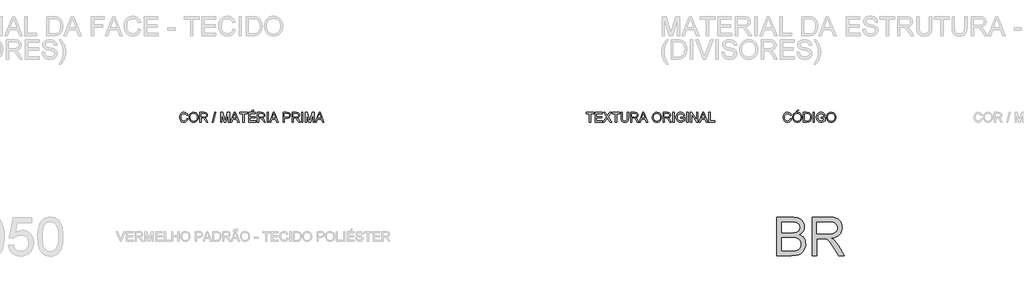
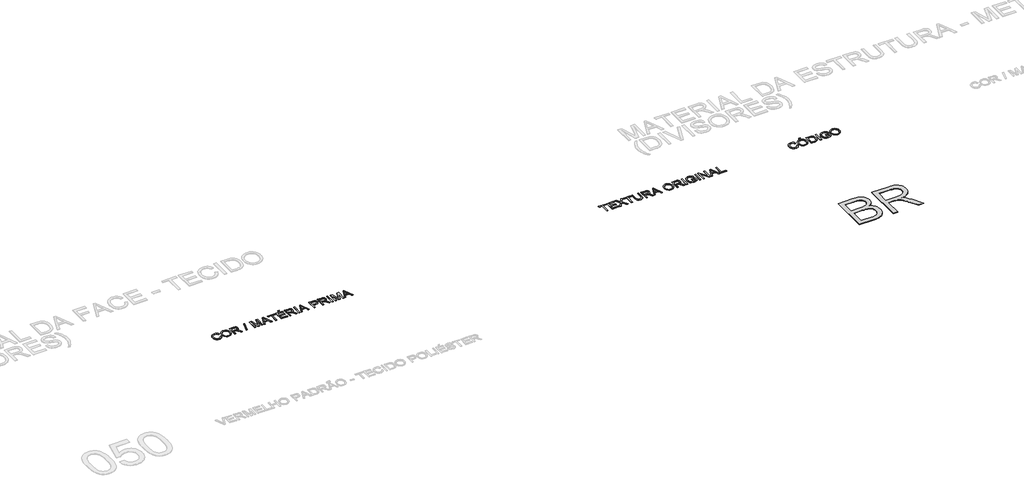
# One storey, part 56 of 67: 4 proxies.
"""IFC4 building model written with IfcOpenShell, lengths in millimetres."""

from ifc_helpers import new_model, si_unit, origin, origin_with_axes, place, context, project, spatial, polyline, outline, extrude, element, save

model = new_model("IFC4")

# Units and contexts
model_context = context("Model", 3, world=origin())
ifc_project = project(units=[si_unit("LENGTHUNIT", "METRE", prefix="MILLI")], contexts=[model_context])

# Site, building, storey
site = spatial("IfcSite", under=ifc_project)
building = spatial("IfcBuilding", under=site)
storey = spatial("IfcBuildingStorey", under=building, Name="Marelli - Linha COLAB - Planta Baixa", Elevation=0.0)

# Proxies
placement = place(None, origin())
element("IfcBuildingElementProxy", 1, Name="1200mm Arial", ObjectType="1200mm Arial", at=placement, inside=storey, context=model_context, shape_type="SweptSolid", body=[
    extrude(outline(polyline([(24875.3752953, -27980.5663201), (24875.3752953, -26775.0905983), (25335.374942, -26775.0905983), (25402.0995389, -26777.3070873), (25461.8895602, -26783.9565544), (25514.7450058, -26795.0389995), (25560.6658759, -26810.5544226), (25600.8201956, -26830.6683707), (25636.3759905, -26855.5463906), (25667.3332604, -26885.1884824), (25693.6920053, -26919.594646), (25714.7440525, -26956.8243039), (25729.7812291, -26994.9368786), (25738.803535, -27033.9323701), (25741.8109703, -27073.8107784), (25739.2817816, -27110.6449631), (25731.6942154, -27146.393896), (25719.0482718, -27181.057577), (25701.3439508, -27214.6360061), (25678.5260701, -27246.0807196), (25650.5394473, -27274.3432539), (25617.3840825, -27299.4236089), (25579.0599756, -27321.3217847), (25624.5393873, -27340.7091659), (25664.4453867, -27365.9090825), (25698.7779739, -27396.9215347), (25727.5371489, -27433.7465224), (25750.2630591, -27475.2620056), (25766.4958522, -27520.3459441), (25776.235528, -27568.998338), (25779.4820866, -27621.2191872), (25777.2655976, -27664.0130603), (25770.6161305, -27705.2802231), (25759.5336854, -27745.0206756), (25744.0182623, -27783.2344179), (25725.2286894, -27818.5326953), (25704.323795, -27849.5267534), (25681.3035791, -27876.2165921), (25656.1680418, -27898.6022115), (25628.3285718, -27917.6033166), (25597.196558, -27934.1396123), (25562.7720003, -27948.2110986), (25525.0548987, -27959.8177755), (25483.4566421, -27968.8952638), (25437.3886193, -27975.3791839), (25331.8432749, -27980.5663201), (24875.3752953, -27980.5663201)]), holes=[polyline([(25026.0597605, -27264.8151103), (25301.2354929, -27264.8151103), (25397.4734228, -27261.5777487), (25461.9263484, -27251.865664), (25492.0282926, -27242.0892), (25518.1755054, -27229.5352269), (25540.3679868, -27214.2037448), (25558.6057367, -27196.0947536), (25572.8335729, -27175.337012), (25582.996313, -27152.0592787), (25589.093957, -27126.2615538), (25591.1265051, -27097.9438372), (25589.2319128, -27070.8309342), (25583.548136, -27045.4102883), (25574.0751746, -27021.6818996), (25560.8130287, -26999.6457681), (25544.0192156, -26980.1204312), (25523.9512528, -26963.9244264), (25500.6091402, -26951.0577536), (25473.9928778, -26941.5204129), (25440.6995572, -26934.6318225), (25397.32627, -26929.7114008), (25280.3397955, -26925.7750635), (25026.0597605, -26925.7750635), (25026.0597605, -27264.8151103)]), polyline([(25026.0597605, -27829.8818548), (25335.0806364, -27829.8818548), (25402.7709235, -27828.4103269), (25446.916763, -27823.9957429), (25498.8249125, -27810.9359321), (25541.5360121, -27791.180669), (25576.2640725, -27762.8905435), (25604.2231041, -27724.2261458), (25614.9744554, -27701.4358562), (25622.6539921, -27676.9165212), (25627.261714, -27650.6681409), (25628.7976214, -27622.6907152), (25626.9949996, -27590.0963704), (25621.5871343, -27559.7093176), (25612.5740254, -27531.5295568), (25599.955673, -27505.5570879), (25583.2998156, -27482.536872), (25562.1741921, -27463.2138703), (25536.5788022, -27447.5880825), (25506.5136462, -27435.6595088), (25470.6543487, -27426.839538), (25427.6765346, -27420.5395588), (25320.3653566, -27415.4995755), (25026.0597605, -27415.4995755), (25026.0597605, -27829.8818548)])]), origin_with_axes(), (0.0, 0.0, 1.0), 10.0),
    extrude(outline(polyline([(25986.6732263, -27980.5663201), (25986.6732263, -26775.0905983), (26506.1226035, -26775.0905983), (26580.6830868, -26777.1231463), (26645.7338206, -26783.2207904), (26701.2748049, -26793.3835305), (26747.3060395, -26807.6113666), (26786.5038661, -26826.9987478), (26821.5446261, -26852.6401229), (26852.4283196, -26884.5354918), (26879.1549466, -26922.6848547), (26900.7220286, -26965.0372694), (26916.1270871, -27009.5417938), (26925.3701222, -27056.1984278), (26928.4511339, -27105.0071715), (26923.3467713, -27166.9217113), (26908.0336832, -27223.7594796), (26882.5118698, -27275.5204763), (26846.781331, -27322.2047015), (26824.9728265, -27343.2705442), (26800.3822144, -27362.3222331), (26742.8546674, -27394.383149), (26674.19869, -27418.3874491), (26594.4142823, -27434.3351336), (26644.0783517, -27466.7823256), (26680.0572108, -27498.7880592), (26741.7878096, -27571.9965762), (26802.1940332, -27653.8871084), (27003.2047554, -27980.5663201), (26828.0929257, -27980.5663201), (26671.2280429, -27730.7008689), (26608.4673745, -27635.3458558), (26557.9203884, -27565.3011239), (26515.7978999, -27517.0717943), (26478.3107246, -27487.1629881), (26442.8101121, -27469.615017), (26406.647312, -27458.4681925), (26371.4042168, -27454.495067), (26319.2385499, -27453.1706918), (26137.3576915, -27453.1706918), (26137.3576915, -27980.5663201), (25986.6732263, -27980.5663201)]), holes=[polyline([(26137.3576915, -27302.4862266), (26474.6319047, -27302.4862266), (26571.495234, -27297.1519376), (26611.7875095, -27290.4840765), (26646.6535256, -27281.1490708), (26676.8750315, -27268.8802063), (26703.2337765, -27253.4107684), (26725.7297605, -27234.7407571), (26744.3629836, -27212.8701725), (26758.9770958, -27188.8750694), (26769.4157474, -27163.8315026), (26775.6789384, -27137.7394721), (26777.7666687, -27110.5989779), (26773.7843461, -27072.0633389), (26761.8373783, -27037.0961552), (26741.9257653, -27005.6974269), (26714.0495071, -26977.867154), (26677.5648103, -26955.0768644), (26631.8278812, -26938.7980861), (26576.83872, -26929.0308192), (26512.5973266, -26925.7750635), (26137.3576915, -26925.7750635), (26137.3576915, -27302.4862266)])]), origin_with_axes(), (0.0, 0.0, 1.0), 10.0),
])
element("IfcBuildingElementProxy", 2, Name="300mm Arial", ObjectType="300mm Arial", at=placement, inside=storey, context=model_context, shape_type="SweptSolid", body=[
    extrude(outline(polyline([(25299.1753537, -23673.4390831), (25336.84647, -23683.1511677), (25329.3922611, -23706.5783531), (25319.4640457, -23727.0486868), (25307.061824, -23744.5621691), (25292.1855958, -23759.1187997), (25275.1710535, -23770.5622291), (25256.3538895, -23778.7361071), (25235.7341036, -23783.640434), (25213.311696, -23785.2752096), (25169.616512, -23780.3271968), (25134.9160429, -23765.4831583), (25108.3181746, -23741.2581289), (25088.9307935, -23708.1671434), (25077.0941903, -23669.2636224), (25073.1486559, -23627.6009865), (25077.6092251, -23583.6574821), (25090.9909326, -23545.7104543), (25112.5948028, -23514.9647166), (25141.7218598, -23492.6250824), (25176.2659791, -23479.0226457), (25214.1210364, -23474.4885001), (25255.4249874, -23480.3562179), (25273.3937236, -23487.6908652), (25289.5736336, -23497.9593714), (25303.698003, -23510.8904235), (25315.5001172, -23526.2127086), (25332.1375805, -23564.0309777), (25294.4664642, -23573.0072984), (25281.4066533, -23545.5357104), (25263.5643766, -23526.6909552), (25240.7189047, -23515.7924511), (25212.6495084, -23512.1596164), (25180.294287, -23516.1879242), (25153.7148128, -23528.2728478), (25133.5456824, -23547.1451941), (25120.4214922, -23571.5357704), (25113.2202022, -23599.1085259), (25110.8197722, -23627.5274101), (25113.6616606, -23662.3290468), (25122.1873258, -23692.421794), (25136.7186646, -23716.6560205), (25157.5775738, -23733.8820949), (25182.5843524, -23744.1735937), (25209.5592997, -23747.6040933), (25241.0040132, -23742.931992), (25267.2064083, -23728.9156879), (25286.9892626, -23705.702334), (25299.1753537, -23673.4390831)])), origin_with_axes(), (0.0, 0.0, 1.0), 10.0),
    extrude(outline(polyline([(25374.5175863, -23633.8549804), (25377.0283809, -23598.5061192), (25384.5607648, -23567.213157), (25397.1147379, -23539.9760937), (25414.6903002, -23516.7949295), (25436.2343895, -23498.2858666), (25460.6939437, -23485.0651074), (25488.0689626, -23477.1326519), (25518.3594464, -23474.4885001), (25557.8883668, -23479.454907), (25593.333797, -23494.3541278), (25622.7643567, -23518.1376988), (25644.2486652, -23549.7571563), (25657.3820524, -23587.68579), (25661.7598481, -23630.3968896), (25657.1521262, -23673.6782064), (25643.3289602, -23712.140269), (25621.0537054, -23743.8149087), (25591.0897169, -23766.733957), (25555.9477893, -23780.6398965), (25518.1387172, -23785.2752096), (25478.0027916, -23780.1524528), (25442.3550262, -23764.7841825), (25412.998043, -23740.5591531), (25391.7344637, -23708.8661192), (25378.8218057, -23672.3998164), (25374.5175863, -23633.8549804)]), holes=[polyline([(25412.1887026, -23634.2228624), (25414.0717986, -23659.1974513), (25419.7210865, -23681.3669401), (25429.1365663, -23700.7313286), (25442.318238, -23717.2906169), (25458.3417982, -23730.5527628), (25476.2829432, -23740.0257242), (25496.1416732, -23745.709501), (25517.917988, -23747.6040933), (25540.0667834, -23745.6911069), (25560.1600381, -23739.9521478), (25578.1977522, -23730.3872159), (25594.1799256, -23716.9963113), (25607.2650283, -23700.0875351), (25616.6115303, -23679.9689885), (25622.2194315, -23656.6406715), (25624.0887318, -23630.102584), (25620.8881585, -23596.7540812), (25611.2864384, -23567.9305269), (25595.531892, -23544.358488), (25573.8728395, -23526.7645316), (25547.7440208, -23515.8108452), (25518.5801756, -23512.1596164), (25497.5603181, -23513.9185522), (25478.0579739, -23519.1953595), (25460.0731428, -23527.9900385), (25443.605825, -23540.302589), (25429.860834, -23556.7262208), (25420.0429832, -23577.8541437), (25414.1522728, -23603.6863575), (25412.1887026, -23634.2228624)])]), origin_with_axes(), (0.0, 0.0, 1.0), 10.0),
    extrude(outline(polyline([(25492.2398248, -23460.3618315), (25520.493162, -23403.855157), (25567.5820574, -23403.855157), (25520.493162, -23460.3618315), (25492.2398248, -23460.3618315)])), origin_with_axes(), (0.0, 0.0, 1.0), 10.0),
    extrude(outline(polyline([(25713.5576331, -23780.5663201), (25713.5576331, -23479.1973896), (25817.5210849, -23479.1973896), (25871.3054326, -23483.5383972), (25895.3281269, -23491.9077126), (25915.5984248, -23505.0962821), (25936.4389398, -23528.0521186), (25951.2829783, -23556.5997614), (25960.1673285, -23590.1873876), (25963.1287786, -23628.2631741), (25961.1238217, -23660.6091985), (25955.1089511, -23689.0740679), (25945.9486894, -23713.3082943), (25934.5075594, -23732.9623899), (25921.3373839, -23748.477813), (25906.9899861, -23760.2960221), (25890.5180698, -23769.0608107), (25870.9743388, -23775.4159721), (25822.52428, -23780.5663201), (25713.5576331, -23780.5663201)]), holes=[polyline([(25751.2287494, -23742.8952038), (25817.8889669, -23742.8952038), (25845.4617224, -23741.5340404), (25866.3758139, -23737.4505502), (25882.1579515, -23730.8838566), (25894.3348455, -23722.0730828), (25907.4222475, -23705.7667134), (25917.2538938, -23684.6594839), (25923.4067202, -23658.6594239), (25925.4576623, -23627.6745629), (25921.4385515, -23586.6189322), (25909.3812191, -23556.3054558), (25891.5665335, -23535.4833349), (25870.275363, -23522.9017706), (25848.6071135, -23518.3768221), (25816.8588973, -23516.8685059), (25751.2287494, -23516.8685059), (25751.2287494, -23742.8952038)])]), origin_with_axes(), (0.0, 0.0, 1.0), 10.0),
    extrude(outline(polyline([(26019.6354531, -23780.5663201), (26019.6354531, -23479.1973896), (26057.3065694, -23479.1973896), (26057.3065694, -23780.5663201), (26019.6354531, -23780.5663201)])), origin_with_axes(), (0.0, 0.0, 1.0), 10.0),
    extrude(outline(polyline([(26273.9154881, -23662.8440816), (26273.9154881, -23625.1729653), (26396.3466161, -23625.1729653), (26396.3466161, -23737.8184322), (26366.5941598, -23758.5117945), (26335.9036043, -23773.355833), (26304.3485262, -23782.2953654), (26272.0025017, -23785.2752096), (26229.7420575, -23780.5387289), (26191.5467094, -23766.3292869), (26159.8168873, -23743.1435241), (26136.9530213, -23711.4780814), (26123.1298553, -23673.4942654), (26118.5221334, -23631.3533828), (26123.1114612, -23588.9089976), (26136.8794449, -23549.4260625), (26159.2558673, -23516.3074859), (26189.6705112, -23492.9561762), (26226.7162281, -23479.1054191), (26268.9858694, -23474.4885001), (26300.0167157, -23477.1648416), (26327.920565, -23485.1938661), (26351.4190275, -23497.9961596), (26369.2337131, -23514.9923077), (26382.4130855, -23537.0008481), (26392.0056086, -23564.8403181), (26357.2775482, -23574.6259792), (26349.5244352, -23554.7695485), (26340.0974591, -23539.7875542), (26327.6262594, -23528.493577), (26310.7404758, -23519.7011973), (26290.6081337, -23514.0450116), (26268.3972582, -23512.1596164), (26242.3971982, -23514.1921644), (26220.1679286, -23520.2898085), (26201.792223, -23529.6891935), (26187.3528547, -23541.6269642), (26167.9654735, -23570.6528536), (26159.1363056, -23599.0901318), (26156.1932497, -23629.8082784), (26159.7341139, -23665.8331228), (26170.3567065, -23695.4752146), (26187.7391307, -23718.5230216), (26211.5594899, -23734.7650117), (26239.4357481, -23744.3943229), (26268.9858694, -23747.6040933), (26295.0778999, -23745.1852692), (26320.5261369, -23737.9287968), (26342.6266478, -23727.9316036), (26358.6754998, -23717.2906169), (26358.6754998, -23662.8440816), (26273.9154881, -23662.8440816)])), origin_with_axes(), (0.0, 0.0, 1.0), 10.0),
    extrude(outline(polyline([(26443.4355115, -23633.8549804), (26445.9463061, -23598.5061192), (26453.47869, -23567.213157), (26466.0326631, -23539.9760937), (26483.6082254, -23516.7949295), (26505.1523147, -23498.2858666), (26529.6118689, -23485.0651074), (26556.9868878, -23477.1326519), (26587.2773716, -23474.4885001), (26626.806292, -23479.454907), (26662.2517222, -23494.3541278), (26691.6822818, -23518.1376988), (26713.1665904, -23549.7571563), (26726.2999776, -23587.68579), (26730.6777733, -23630.3968896), (26726.0700513, -23673.6782064), (26712.2468854, -23712.140269), (26689.9716306, -23743.8149087), (26660.0076421, -23766.733957), (26624.8657145, -23780.6398965), (26587.0566424, -23785.2752096), (26546.9207167, -23780.1524528), (26511.2729514, -23764.7841825), (26481.9159682, -23740.5591531), (26460.6523889, -23708.8661192), (26447.7397308, -23672.3998164), (26443.4355115, -23633.8549804)]), holes=[polyline([(26481.1066278, -23634.2228624), (26482.9897238, -23659.1974513), (26488.6390117, -23681.3669401), (26498.0544915, -23700.7313286), (26511.2361632, -23717.2906169), (26527.2597234, -23730.5527628), (26545.2008684, -23740.0257242), (26565.0595984, -23745.709501), (26586.8359132, -23747.6040933), (26608.9847086, -23745.6911069), (26629.0779633, -23739.9521478), (26647.1156774, -23730.3872159), (26663.0978508, -23716.9963113), (26676.1829535, -23700.0875351), (26685.5294555, -23679.9689885), (26691.1373566, -23656.6406715), (26693.006657, -23630.102584), (26689.8060837, -23596.7540812), (26680.2043636, -23567.9305269), (26664.4498171, -23544.358488), (26642.7907647, -23526.7645316), (26616.661946, -23515.8108452), (26587.4981008, -23512.1596164), (26566.4782433, -23513.9185522), (26546.975899, -23519.1953595), (26528.991068, -23527.9900385), (26512.5237502, -23540.302589), (26498.7787591, -23556.7262208), (26488.9609084, -23577.8541437), (26483.070198, -23603.6863575), (26481.1066278, -23634.2228624)])]), origin_with_axes(), (0.0, 0.0, 1.0), 10.0),
])
element("IfcBuildingElementProxy", 3, Name="300mm Arial", ObjectType="300mm Arial", at=placement, inside=storey, context=model_context, shape_type="SweptSolid", body=[
    extrude(outline(polyline([(18978.3318382, -23780.5663201), (18978.3318382, -23516.8685059), (18879.4451579, -23516.8685059), (18879.4451579, -23479.1973896), (19114.8896348, -23479.1973896), (19114.8896348, -23516.8685059), (19016.0029545, -23516.8685059), (19016.0029545, -23780.5663201), (18978.3318382, -23780.5663201)])), origin_with_axes(), (0.0, 0.0, 1.0), 10.0),
    extrude(outline(polyline([(19157.2696407, -23780.5663201), (19157.2696407, -23479.1973896), (19373.8785594, -23479.1973896), (19373.8785594, -23516.8685059), (19194.940757, -23516.8685059), (19194.940757, -23606.3374072), (19364.4607804, -23606.3374072), (19364.4607804, -23644.0085235), (19194.940757, -23644.0085235), (19194.940757, -23742.8952038), (19378.587449, -23742.8952038), (19378.587449, -23780.5663201), (19157.2696407, -23780.5663201)])), origin_with_axes(), (0.0, 0.0, 1.0), 10.0),
    extrude(outline(polyline([(19402.1318967, -23780.5663201), (19518.3090307, -23616.3437974), (19420.9674548, -23479.1973896), (19466.1433638, -23479.1973896), (19520.9577811, -23556.3790322), (19539.4254573, -23586.4717794), (19561.0569186, -23555.8639974), (19615.2827247, -23479.1973896), (19661.1208213, -23479.1973896), (19563.7792453, -23616.7852558), (19679.9563794, -23780.5663201), (19634.7804704, -23780.5663201), (19557.3780986, -23671.3789439), (19541.2648672, -23648.717413), (19523.5329551, -23673.5862359), (19447.9699933, -23780.5663201), (19402.1318967, -23780.5663201)])), origin_with_axes(), (0.0, 0.0, 1.0), 10.0),
    extrude(outline(polyline([(19792.9697283, -23780.5663201), (19792.9697283, -23516.8685059), (19694.083048, -23516.8685059), (19694.083048, -23479.1973896), (19929.5275249, -23479.1973896), (19929.5275249, -23516.8685059), (19830.6408446, -23516.8685059), (19830.6408446, -23780.5663201), (19792.9697283, -23780.5663201)])), origin_with_axes(), (0.0, 0.0, 1.0), 10.0),
    extrude(outline(polyline([(20169.6808914, -23479.1973896), (20207.3520077, -23479.1973896), (20207.3520077, -23653.0584205), (20204.7952278, -23693.7737604), (20197.1248882, -23725.1265034), (20182.7958845, -23749.3147446), (20160.2631123, -23768.5365788), (20129.4713893, -23781.0905519), (20090.3655332, -23785.2752096), (20052.1150028, -23781.6331779), (20021.5348119, -23770.7070826), (19998.6157636, -23752.8740029), (19983.3486608, -23728.5110178), (19974.7678133, -23695.8338995), (19971.9075308, -23653.0584205), (19971.9075308, -23479.1973896), (20009.5786471, -23479.1973896), (20009.5786471, -23651.7340454), (20011.4364512, -23685.588386), (20017.0098634, -23709.1604248), (20027.1082242, -23725.4851883), (20042.5408739, -23737.597703), (20062.664019, -23745.1024957), (20086.8338661, -23747.6040933), (20125.1487759, -23742.6560805), (20139.4915752, -23736.4710644), (20150.624604, -23727.812042), (20158.9617298, -23715.6351479), (20164.9168196, -23698.8965171), (20169.6808914, -23651.7340454), (20169.6808914, -23479.1973896)])), origin_with_axes(), (0.0, 0.0, 1.0), 10.0),
    extrude(outline(polyline([(20273.2764612, -23780.5663201), (20273.2764612, -23479.1973896), (20403.1388055, -23479.1973896), (20438.0416098, -23481.2299376), (20463.4346645, -23487.3275817), (20481.9943112, -23498.5847708), (20496.3968913, -23516.0959537), (20505.6399264, -23537.8101885), (20508.7209382, -23561.6765329), (20503.6165755, -23591.3646099), (20488.3034874, -23615.9759154), (20476.7037083, -23626.0052983), (20462.3218215, -23634.0205273), (20425.2117252, -23644.0085235), (20446.6224574, -23660.1217548), (20477.156663, -23698.8965171), (20527.4093435, -23780.5663201), (20483.6313861, -23780.5663201), (20444.4151654, -23718.0999573), (20416.0882518, -23676.750021), (20396.1858358, -23657.2154871), (20378.2699827, -23650.0417882), (20356.4177921, -23648.717413), (20310.9475775, -23648.717413), (20310.9475775, -23780.5663201), (20273.2764612, -23780.5663201)]), holes=[polyline([(20310.9475775, -23611.0462967), (20395.2661308, -23611.0462967), (20419.4819632, -23609.7127245), (20438.2715361, -23605.7120078), (20452.4165988, -23598.7774322), (20462.6989006, -23588.6422832), (20468.9620915, -23576.3826157), (20471.0498218, -23563.0744845), (20467.0674992, -23544.6987789), (20455.1205315, -23529.8915286), (20434.565125, -23520.1242616), (20404.7574863, -23516.8685059), (20310.9475775, -23516.8685059), (20310.9475775, -23611.0462967)])]), origin_with_axes(), (0.0, 0.0, 1.0), 10.0),
    extrude(outline(polyline([(20539.5494493, -23780.5663201), (20659.8468618, -23479.1973896), (20691.9261717, -23479.1973896), (20812.2235842, -23780.5663201), (20772.4187523, -23780.5663201), (20737.9114211, -23686.3885293), (20613.788036, -23686.3885293), (20579.3542812, -23780.5663201), (20539.5494493, -23780.5663201)]), holes=[polyline([(20627.620399, -23648.717413), (20724.1526345, -23648.717413), (20697.0029433, -23574.6259792), (20675.8865168, -23516.8685059), (20657.124535, -23568.1512561), (20627.620399, -23648.717413)])]), origin_with_axes(), (0.0, 0.0, 1.0), 10.0),
    extrude(outline(polyline([(20956.0654443, -23633.8549804), (20958.5762389, -23598.5061192), (20966.1086228, -23567.213157), (20978.6625958, -23539.9760937), (20996.2381582, -23516.7949295), (21017.7822475, -23498.2858666), (21042.2418017, -23485.0651074), (21069.6168206, -23477.1326519), (21099.9073044, -23474.4885001), (21139.4362248, -23479.454907), (21174.881655, -23494.3541278), (21204.3122146, -23518.1376988), (21225.7965232, -23549.7571563), (21238.9299104, -23587.68579), (21243.3077061, -23630.3968896), (21238.6999841, -23673.6782064), (21224.8768182, -23712.140269), (21202.6015634, -23743.8149087), (21172.6375748, -23766.733957), (21137.4956473, -23780.6398965), (21099.6865752, -23785.2752096), (21059.5506495, -23780.1524528), (21023.9028842, -23764.7841825), (20994.545901, -23740.5591531), (20973.2823217, -23708.8661192), (20960.3696636, -23672.3998164), (20956.0654443, -23633.8549804)]), holes=[polyline([(20993.7365606, -23634.2228624), (20995.6196566, -23659.1974513), (21001.2689444, -23681.3669401), (21010.6844243, -23700.7313286), (21023.866096, -23717.2906169), (21039.8896562, -23730.5527628), (21057.8308012, -23740.0257242), (21077.6895312, -23745.709501), (21099.465846, -23747.6040933), (21121.6146414, -23745.6911069), (21141.7078961, -23739.9521478), (21159.7456102, -23730.3872159), (21175.7277836, -23716.9963113), (21188.8128863, -23700.0875351), (21198.1593883, -23679.9689885), (21203.7672894, -23656.6406715), (21205.6365898, -23630.102584), (21202.4360165, -23596.7540812), (21192.8342964, -23567.9305269), (21177.0797499, -23544.358488), (21155.4206975, -23526.7645316), (21129.2918788, -23515.8108452), (21100.1280336, -23512.1596164), (21079.1081761, -23513.9185522), (21059.6058318, -23519.1953595), (21041.6210008, -23527.9900385), (21025.153683, -23540.302589), (21011.4086919, -23556.7262208), (21001.5908412, -23577.8541437), (20995.7001307, -23603.6863575), (20993.7365606, -23634.2228624)])]), origin_with_axes(), (0.0, 0.0, 1.0), 10.0),
    extrude(outline(polyline([(21295.105491, -23780.5663201), (21295.105491, -23479.1973896), (21424.9678353, -23479.1973896), (21459.8706396, -23481.2299376), (21485.2636943, -23487.3275817), (21503.823341, -23498.5847708), (21518.2259211, -23516.0959537), (21527.4689562, -23537.8101885), (21530.549968, -23561.6765329), (21525.4456053, -23591.3646099), (21510.1325172, -23615.9759154), (21498.5327381, -23626.0052983), (21484.1508513, -23634.0205273), (21447.040755, -23644.0085235), (21468.4514872, -23660.1217548), (21498.9856928, -23698.8965171), (21549.2383733, -23780.5663201), (21505.4604159, -23780.5663201), (21466.2441952, -23718.0999573), (21437.9172816, -23676.750021), (21418.0148656, -23657.2154871), (21400.0990125, -23650.0417882), (21378.246822, -23648.717413), (21332.7766073, -23648.717413), (21332.7766073, -23780.5663201), (21295.105491, -23780.5663201)]), holes=[polyline([(21332.7766073, -23611.0462967), (21417.0951606, -23611.0462967), (21441.310993, -23609.7127245), (21460.1005659, -23605.7120078), (21474.2456286, -23598.7774322), (21484.5279304, -23588.6422832), (21490.7911213, -23576.3826157), (21492.8788516, -23563.0744845), (21488.8965291, -23544.6987789), (21476.9495613, -23529.8915286), (21456.3941548, -23520.1242616), (21426.5865161, -23516.8685059), (21332.7766073, -23516.8685059), (21332.7766073, -23611.0462967)])]), origin_with_axes(), (0.0, 0.0, 1.0), 10.0),
    extrude(outline(polyline([(21601.183311, -23780.5663201), (21601.183311, -23479.1973896), (21638.8544273, -23479.1973896), (21638.8544273, -23780.5663201), (21601.183311, -23780.5663201)])), origin_with_axes(), (0.0, 0.0, 1.0), 10.0),
    extrude(outline(polyline([(21855.4633461, -23662.8440816), (21855.4633461, -23625.1729653), (21977.8944741, -23625.1729653), (21977.8944741, -23737.8184322), (21948.1420177, -23758.5117945), (21917.4514623, -23773.355833), (21885.8963841, -23782.2953654), (21853.5503597, -23785.2752096), (21811.2899155, -23780.5387289), (21773.0945674, -23766.3292869), (21741.3647453, -23743.1435241), (21718.5008793, -23711.4780814), (21704.6777133, -23673.4942654), (21700.0699913, -23631.3533828), (21704.6593192, -23588.9089976), (21718.4273029, -23549.4260625), (21740.8037252, -23516.3074859), (21771.2183692, -23492.9561762), (21808.2640861, -23479.1054191), (21850.5337274, -23474.4885001), (21881.5645737, -23477.1648416), (21909.468423, -23485.1938661), (21932.9668854, -23497.9961596), (21950.781571, -23514.9923077), (21963.9609435, -23537.0008481), (21973.5534665, -23564.8403181), (21938.8254062, -23574.6259792), (21931.0722932, -23554.7695485), (21921.645317, -23539.7875542), (21909.1741174, -23528.493577), (21892.2883338, -23519.7011973), (21872.1559916, -23514.0450116), (21849.9451162, -23512.1596164), (21823.9450562, -23514.1921644), (21801.7157866, -23520.2898085), (21783.3400809, -23529.6891935), (21768.9007126, -23541.6269642), (21749.5133315, -23570.6528536), (21740.6841636, -23599.0901318), (21737.7411076, -23629.8082784), (21741.2819718, -23665.8331228), (21751.9045645, -23695.4752146), (21769.2869887, -23718.5230216), (21793.1073479, -23734.7650117), (21820.9836061, -23744.3943229), (21850.5337274, -23747.6040933), (21876.6257579, -23745.1852692), (21902.0739949, -23737.9287968), (21924.1745057, -23727.9316036), (21940.2233578, -23717.2906169), (21940.2233578, -23662.8440816), (21855.4633461, -23662.8440816)])), origin_with_axes(), (0.0, 0.0, 1.0), 10.0),
    extrude(outline(polyline([(22043.8189276, -23780.5663201), (22043.8189276, -23479.1973896), (22081.4900439, -23479.1973896), (22081.4900439, -23780.5663201), (22043.8189276, -23780.5663201)])), origin_with_axes(), (0.0, 0.0, 1.0), 10.0),
    extrude(outline(polyline([(22156.8322765, -23780.5663201), (22156.8322765, -23479.1973896), (22197.1521432, -23479.1973896), (22354.6056372, -23717.9528045), (22354.6056372, -23479.1973896), (22392.2767535, -23479.1973896), (22392.2767535, -23780.5663201), (22351.9568868, -23780.5663201), (22194.5033928, -23541.7373288), (22194.5033928, -23780.5663201), (22156.8322765, -23780.5663201)])), origin_with_axes(), (0.0, 0.0, 1.0), 10.0),
    extrude(outline(polyline([(22423.1052647, -23780.5663201), (22543.4026771, -23479.1973896), (22575.4819871, -23479.1973896), (22695.7793995, -23780.5663201), (22655.9745676, -23780.5663201), (22621.4672365, -23686.3885293), (22497.3438513, -23686.3885293), (22462.9100965, -23780.5663201), (22423.1052647, -23780.5663201)]), holes=[polyline([(22511.1762143, -23648.717413), (22607.7084498, -23648.717413), (22580.5587586, -23574.6259792), (22559.4423321, -23516.8685059), (22540.6803503, -23568.1512561), (22511.1762143, -23648.717413)])]), origin_with_axes(), (0.0, 0.0, 1.0), 10.0),
    extrude(outline(polyline([(22736.0256898, -23780.5663201), (22736.0256898, -23479.1973896), (22773.6968061, -23479.1973896), (22773.6968061, -23742.8952038), (22924.3812713, -23742.8952038), (22924.3812713, -23780.5663201), (22736.0256898, -23780.5663201)])), origin_with_axes(), (0.0, 0.0, 1.0), 10.0),
])
element("IfcBuildingElementProxy", 4, Name="300mm Arial", ObjectType="300mm Arial", at=placement, inside=storey, context=model_context, shape_type="SweptSolid", body=[
    extrude(outline(polyline([(6304.1029253, -23673.4390831), (6341.7740416, -23683.1511677), (6334.3198327, -23706.5783531), (6324.3916173, -23727.0486868), (6311.9893956, -23744.5621691), (6297.1131674, -23759.1187997), (6280.0986251, -23770.5622291), (6261.2814611, -23778.7361071), (6240.6616752, -23783.640434), (6218.2392676, -23785.2752096), (6174.5440836, -23780.3271968), (6139.8436145, -23765.4831583), (6113.2457462, -23741.2581289), (6093.8583651, -23708.1671434), (6082.0217619, -23669.2636224), (6078.0762275, -23627.6009865), (6082.5367967, -23583.6574821), (6095.9185042, -23545.7104543), (6117.5223744, -23514.9647166), (6146.6494314, -23492.6250824), (6181.1935507, -23479.0226457), (6219.048608, -23474.4885001), (6260.352559, -23480.3562179), (6278.3212952, -23487.6908652), (6294.5012052, -23497.9593714), (6308.6255746, -23510.8904235), (6320.4276888, -23526.2127086), (6337.0651521, -23564.0309777), (6299.3940358, -23573.0072984), (6286.3342249, -23545.5357104), (6268.4919482, -23526.6909552), (6245.6464763, -23515.7924511), (6217.57708, -23512.1596164), (6185.2218586, -23516.1879242), (6158.6423844, -23528.2728478), (6138.473254, -23547.1451941), (6125.3490638, -23571.5357704), (6118.1477738, -23599.1085259), (6115.7473438, -23627.5274101), (6118.5892322, -23662.3290468), (6127.1148974, -23692.421794), (6141.6462362, -23716.6560205), (6162.5051454, -23733.8820949), (6187.511924, -23744.1735937), (6214.4868713, -23747.6040933), (6245.9315848, -23742.931992), (6272.1339799, -23728.9156879), (6291.9168342, -23705.702334), (6304.1029253, -23673.4390831)])), origin_with_axes(), (0.0, 0.0, 1.0), 10.0),
    extrude(outline(polyline([(6379.4451579, -23633.8549804), (6381.9559525, -23598.5061192), (6389.4883364, -23567.213157), (6402.0423095, -23539.9760937), (6419.6178718, -23516.7949295), (6441.1619611, -23498.2858666), (6465.6215153, -23485.0651074), (6492.9965342, -23477.1326519), (6523.287018, -23474.4885001), (6562.8159384, -23479.454907), (6598.2613686, -23494.3541278), (6627.6919283, -23518.1376988), (6649.1762368, -23549.7571563), (6662.309624, -23587.68579), (6666.6874197, -23630.3968896), (6662.0796978, -23673.6782064), (6648.2565318, -23712.140269), (6625.981277, -23743.8149088), (6596.0172885, -23766.733957), (6560.8753609, -23780.6398965), (6523.0662888, -23785.2752096), (6482.9303632, -23780.1524528), (6447.2825978, -23764.7841825), (6417.9256146, -23740.5591531), (6396.6620353, -23708.8661192), (6383.7493773, -23672.3998164), (6379.4451579, -23633.8549804)]), holes=[polyline([(6417.1162742, -23634.2228624), (6418.9993702, -23659.1974513), (6424.6486581, -23681.3669401), (6434.0641379, -23700.7313286), (6447.2458096, -23717.2906169), (6463.2693698, -23730.5527628), (6481.2105148, -23740.0257242), (6501.0692448, -23745.709501), (6522.8455596, -23747.6040933), (6544.994355, -23745.6911069), (6565.0876097, -23739.9521478), (6583.1253238, -23730.3872159), (6599.1074972, -23716.9963113), (6612.1925999, -23700.0875351), (6621.5391019, -23679.9689885), (6627.1470031, -23656.6406715), (6629.0163034, -23630.102584), (6625.8157301, -23596.7540812), (6616.21401, -23567.9305269), (6600.4594636, -23544.358488), (6578.8004111, -23526.7645316), (6552.6715924, -23515.8108452), (6523.5077472, -23512.1596164), (6502.4878897, -23513.9185522), (6482.9855455, -23519.1953595), (6465.0007144, -23527.9900385), (6448.5333966, -23540.302589), (6434.7884056, -23556.7262208), (6424.9705548, -23577.8541437), (6419.0798444, -23603.6863575), (6417.1162742, -23634.2228624)])]), origin_with_axes(), (0.0, 0.0, 1.0), 10.0),
    extrude(outline(polyline([(6718.4852047, -23780.5663201), (6718.4852047, -23479.1973896), (6848.347549, -23479.1973896), (6883.2503533, -23481.2299376), (6908.643408, -23487.3275817), (6927.2030546, -23498.5847708), (6941.6056347, -23516.0959537), (6950.8486699, -23537.8101885), (6953.9296816, -23561.6765329), (6948.8253189, -23591.3646099), (6933.5122308, -23615.9759154), (6921.9124517, -23626.0052983), (6907.5305649, -23634.0205273), (6870.4204687, -23644.0085235), (6891.8312008, -23660.1217548), (6922.3654064, -23698.8965171), (6972.6180869, -23780.5663201), (6928.8401295, -23780.5663201), (6889.6239088, -23718.0999573), (6861.2969952, -23676.750021), (6841.3945793, -23657.2154871), (6823.4787261, -23650.0417882), (6801.6265356, -23648.717413), (6756.156321, -23648.717413), (6756.156321, -23780.5663201), (6718.4852047, -23780.5663201)]), holes=[polyline([(6756.156321, -23611.0462967), (6840.4748743, -23611.0462967), (6864.6907066, -23609.7127245), (6883.4802795, -23605.7120078), (6897.6253422, -23598.7774322), (6907.907644, -23588.6422832), (6914.170835, -23576.3826157), (6916.2585653, -23563.0744845), (6912.2762427, -23544.6987789), (6900.3292749, -23529.8915286), (6879.7738684, -23520.1242616), (6849.9662297, -23516.8685059), (6756.156321, -23516.8685059), (6756.156321, -23611.0462967)])]), origin_with_axes(), (0.0, 0.0, 1.0), 10.0),
    extrude(outline(polyline([(7104.6141468, -23780.5663201), (7189.3741585, -23479.1973896), (7223.3664548, -23479.1973896), (7138.6064432, -23780.5663201), (7104.6141468, -23780.5663201)])), origin_with_axes(), (0.0, 0.0, 1.0), 10.0),
    extrude(outline(polyline([(7373.0208505, -23780.5663201), (7373.0208505, -23479.1973896), (7437.841658, -23479.1973896), (7499.4986804, -23691.6124536), (7511.9330919, -23735.9790223), (7525.3975729, -23687.9336337), (7586.0245257, -23479.1973896), (7650.8453332, -23479.1973896), (7650.8453332, -23780.5663201), (7613.1742169, -23780.5663201), (7613.1742169, -23516.8685059), (7537.4641023, -23780.5663201), (7486.4020814, -23780.5663201), (7410.6919668, -23516.8685059), (7410.6919668, -23780.5663201), (7373.0208505, -23780.5663201)])), origin_with_axes(), (0.0, 0.0, 1.0), 10.0),
    extrude(outline(polyline([(7681.6738444, -23780.5663201), (7801.9712569, -23479.1973896), (7834.0505668, -23479.1973896), (7954.3479793, -23780.5663201), (7914.5431474, -23780.5663201), (7880.0358162, -23686.3885293), (7755.9124311, -23686.3885293), (7721.4786763, -23780.5663201), (7681.6738444, -23780.5663201)]), holes=[polyline([(7769.7447941, -23648.717413), (7866.2770296, -23648.717413), (7839.1273384, -23574.6259792), (7818.0109119, -23516.8685059), (7799.2489301, -23568.1512561), (7769.7447941, -23648.717413)])]), origin_with_axes(), (0.0, 0.0, 1.0), 10.0),
    extrude(outline(polyline([(8069.9365021, -23780.5663201), (8069.9365021, -23516.8685059), (7971.0498218, -23516.8685059), (7971.0498218, -23479.1973896), (8206.4942988, -23479.1973896), (8206.4942988, -23516.8685059), (8107.6076185, -23516.8685059), (8107.6076185, -23780.5663201), (8069.9365021, -23780.5663201)])), origin_with_axes(), (0.0, 0.0, 1.0), 10.0),
    extrude(outline(polyline([(8248.8743046, -23780.5663201), (8248.8743046, -23479.1973896), (8465.4832234, -23479.1973896), (8465.4832234, -23516.8685059), (8286.5454209, -23516.8685059), (8286.5454209, -23606.3374072), (8456.0654443, -23606.3374072), (8456.0654443, -23644.0085235), (8286.5454209, -23644.0085235), (8286.5454209, -23742.8952038), (8470.1921129, -23742.8952038), (8470.1921129, -23780.5663201), (8248.8743046, -23780.5663201)])), origin_with_axes(), (0.0, 0.0, 1.0), 10.0),
    extrude(outline(polyline([(8333.6343163, -23460.3618315), (8361.8876535, -23403.855157), (8408.9765489, -23403.855157), (8361.8876535, -23460.3618315), (8333.6343163, -23460.3618315)])), origin_with_axes(), (0.0, 0.0, 1.0), 10.0),
    extrude(outline(polyline([(8526.6987874, -23780.5663201), (8526.6987874, -23479.1973896), (8656.5611317, -23479.1973896), (8691.463936, -23481.2299376), (8716.8569907, -23487.3275817), (8735.4166373, -23498.5847708), (8749.8192174, -23516.0959537), (8759.0622526, -23537.8101885), (8762.1432643, -23561.6765329), (8757.0389016, -23591.3646099), (8741.7258135, -23615.9759154), (8730.1260344, -23626.0052983), (8715.7441476, -23634.0205273), (8678.6340514, -23644.0085235), (8700.0447835, -23660.1217548), (8730.5789891, -23698.8965171), (8780.8316696, -23780.5663201), (8737.0537122, -23780.5663201), (8697.8374915, -23718.0999573), (8669.5105779, -23676.750021), (8649.6081619, -23657.2154871), (8631.6923088, -23650.0417882), (8609.8401183, -23648.717413), (8564.3699037, -23648.717413), (8564.3699037, -23780.5663201), (8526.6987874, -23780.5663201)]), holes=[polyline([(8564.3699037, -23611.0462967), (8648.688457, -23611.0462967), (8672.9042893, -23609.7127245), (8691.6938622, -23605.7120078), (8705.8389249, -23598.7774322), (8716.1212267, -23588.6422832), (8722.3844176, -23576.3826157), (8724.472148, -23563.0744845), (8720.4898254, -23544.6987789), (8708.5428576, -23529.8915286), (8687.9874511, -23520.1242616), (8658.1798124, -23516.8685059), (8564.3699037, -23516.8685059), (8564.3699037, -23611.0462967)])]), origin_with_axes(), (0.0, 0.0, 1.0), 10.0),
    extrude(outline(polyline([(8832.7766073, -23780.5663201), (8832.7766073, -23479.1973896), (8870.4477237, -23479.1973896), (8870.4477237, -23780.5663201), (8832.7766073, -23780.5663201)])), origin_with_axes(), (0.0, 0.0, 1.0), 10.0),
    extrude(outline(polyline([(8910.6940139, -23780.5663201), (9030.9914263, -23479.1973896), (9063.0707363, -23479.1973896), (9183.3681488, -23780.5663201), (9143.5633169, -23780.5663201), (9109.0559857, -23686.3885293), (8984.9326006, -23686.3885293), (8950.4988458, -23780.5663201), (8910.6940139, -23780.5663201)]), holes=[polyline([(8998.7649636, -23648.717413), (9095.2971991, -23648.717413), (9068.1475079, -23574.6259792), (9047.0310813, -23516.8685059), (9028.2690996, -23568.1512561), (8998.7649636, -23648.717413)])]), origin_with_axes(), (0.0, 0.0, 1.0), 10.0),
    extrude(outline(polyline([(9341.3366775, -23780.5663201), (9341.3366775, -23479.1973896), (9453.0256512, -23479.1973896), (9498.0544074, -23482.0668692), (9518.1315673, -23487.4287493), (9534.6586659, -23496.1567496), (9547.9667971, -23508.6463433), (9558.3870546, -23525.2930036), (9565.1192951, -23544.9287051), (9567.3633753, -23566.3854225), (9565.8481613, -23584.8852883), (9561.3025194, -23601.9044291), (9553.7264496, -23617.4428449), (9543.1199518, -23631.5005356), (9528.5587226, -23643.1531978), (9509.1184584, -23651.476528), (9484.7991593, -23656.470526), (9455.6008252, -23658.1351921), (9379.0077938, -23658.1351921), (9379.0077938, -23780.5663201), (9341.3366775, -23780.5663201)]), holes=[polyline([(9379.0077938, -23620.4640758), (9457.8081172, -23620.4640758), (9491.2118023, -23617.005985), (9513.284722, -23606.6317127), (9525.5903748, -23589.9850525), (9529.692259, -23567.7097977), (9527.2734349, -23550.7872259), (9520.0169625, -23536.5134045), (9508.8241528, -23525.7712502), (9494.5963167, -23519.4436799), (9456.9252004, -23516.8685059), (9379.0077938, -23516.8685059), (9379.0077938, -23620.4640758)])]), origin_with_axes(), (0.0, 0.0, 1.0), 10.0),
    extrude(outline(polyline([(9619.1611602, -23780.5663201), (9619.1611602, -23479.1973896), (9749.0235045, -23479.1973896), (9783.9263088, -23481.2299376), (9809.3193635, -23487.3275817), (9827.8790102, -23498.5847708), (9842.2815903, -23516.0959537), (9851.5246254, -23537.8101885), (9854.6056372, -23561.6765329), (9849.5012745, -23591.3646099), (9834.1881864, -23615.9759154), (9822.5884073, -23626.0052983), (9808.2065205, -23634.0205273), (9771.0964242, -23644.0085235), (9792.5071564, -23660.1217548), (9823.041362, -23698.8965171), (9873.2940425, -23780.5663201), (9829.5160851, -23780.5663201), (9790.2998644, -23718.0999573), (9761.9729508, -23676.750021), (9742.0705348, -23657.2154871), (9724.1546817, -23650.0417882), (9702.3024911, -23648.717413), (9656.8322765, -23648.717413), (9656.8322765, -23780.5663201), (9619.1611602, -23780.5663201)]), holes=[polyline([(9656.8322765, -23611.0462967), (9741.1508298, -23611.0462967), (9765.3666622, -23609.7127245), (9784.1562351, -23605.7120078), (9798.3012978, -23598.7774322), (9808.5835996, -23588.6422832), (9814.8467905, -23576.3826157), (9816.9345208, -23563.0744845), (9812.9521982, -23544.6987789), (9801.0052305, -23529.8915286), (9780.449824, -23520.1242616), (9750.6421853, -23516.8685059), (9656.8322765, -23516.8685059), (9656.8322765, -23611.0462967)])]), origin_with_axes(), (0.0, 0.0, 1.0), 10.0),
    extrude(outline(polyline([(9925.2389802, -23780.5663201), (9925.2389802, -23479.1973896), (9962.9100965, -23479.1973896), (9962.9100965, -23780.5663201), (9925.2389802, -23780.5663201)])), origin_with_axes(), (0.0, 0.0, 1.0), 10.0),
    extrude(outline(polyline([(10038.2523291, -23780.5663201), (10038.2523291, -23479.1973896), (10103.0731367, -23479.1973896), (10164.7301591, -23691.6124536), (10177.1645705, -23735.9790223), (10190.6290515, -23687.9336337), (10251.2560044, -23479.1973896), (10316.0768119, -23479.1973896), (10316.0768119, -23780.5663201), (10278.4056956, -23780.5663201), (10278.4056956, -23516.8685059), (10202.695581, -23780.5663201), (10151.6335601, -23780.5663201), (10075.9234454, -23516.8685059), (10075.9234454, -23780.5663201), (10038.2523291, -23780.5663201)])), origin_with_axes(), (0.0, 0.0, 1.0), 10.0),
    extrude(outline(polyline([(10346.9053231, -23780.5663201), (10467.2027355, -23479.1973896), (10499.2820455, -23479.1973896), (10619.5794579, -23780.5663201), (10579.774626, -23780.5663201), (10545.2672949, -23686.3885293), (10421.1439097, -23686.3885293), (10386.710155, -23780.5663201), (10346.9053231, -23780.5663201)]), holes=[polyline([(10434.9762727, -23648.717413), (10531.5085083, -23648.717413), (10504.358817, -23574.6259792), (10483.2423905, -23516.8685059), (10464.4804088, -23568.1512561), (10434.9762727, -23648.717413)])]), origin_with_axes(), (0.0, 0.0, 1.0), 10.0),
])

save(model, "model.ifc")
